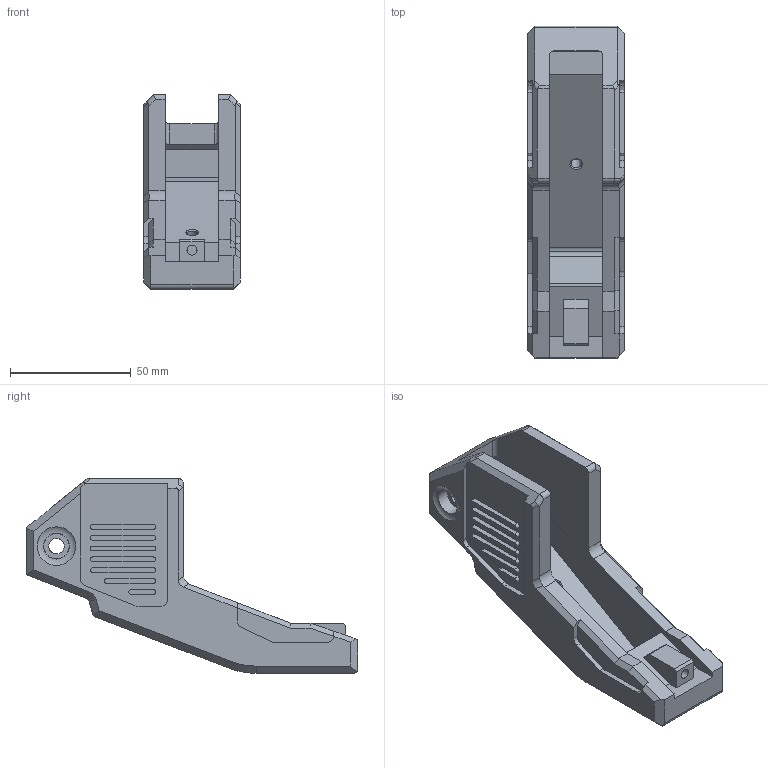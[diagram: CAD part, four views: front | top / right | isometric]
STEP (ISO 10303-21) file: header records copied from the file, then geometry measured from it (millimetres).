
FILE_DESCRIPTION(('HOOPS Exchange Step'),'2;1');
FILE_NAME('/private/var/mobile/Containers/Data/Application/9F88D646-2CEA-4423-B748-2C55ED46232A/tmp/export/temp_export','2026-08-13T16:24:22-05:00',('mobile'),('Shapr3D Limited'),'HOOPS Exchange 2026.3','Shapr3D','Authorized');
FILE_SCHEMA( ('AP242_MANAGED_MODEL_BASED_3D_ENGINEERING_MIM_LF {1 0 10303 442 1 1 4}') );
Length unit declared in the file: millimetre
Products named in the file (3): Mag Body; Mgbot.step; root
Assembly tree (2 placements, depth 3):
  root
    Mgbot.step
      Mag Body
Bounding box: 40 x 137.54 x 80.7 mm (x, y, z)
Volume: 117657.8 mm3; surface area: 33528.6 mm2
Topology: 1 solids, 1 shells, 239 faces, 639 edges, 420 vertices
Faces by surface type: plane 146, cylinder 86, cone 5, torus 2
Full cylindrical faces by diameter (mm): 4.2 x2, 6.5 x2, 10.5 x2
Entity records: 7521 total; most frequent: CARTESIAN_POINT 1390, ORIENTED_EDGE 1278, DIRECTION 1264, EDGE_CURVE 639, VECTOR 434, LINE 434, VERTEX_POINT 420, AXIS2_PLACEMENT_3D 415
